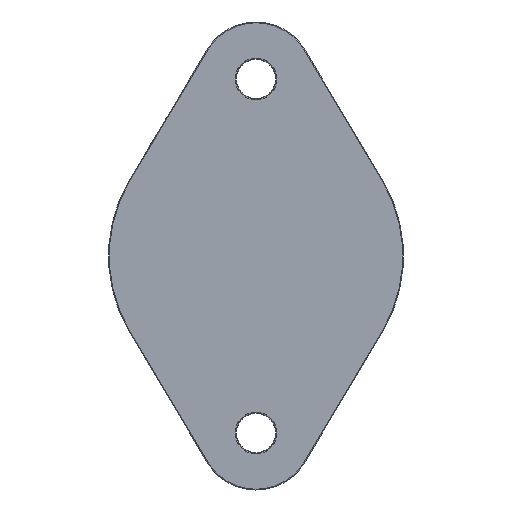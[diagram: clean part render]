
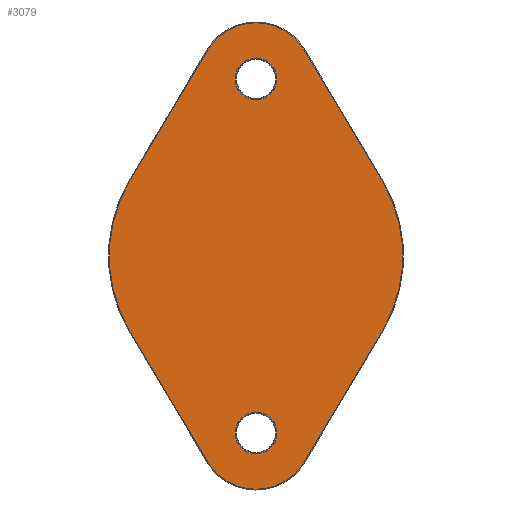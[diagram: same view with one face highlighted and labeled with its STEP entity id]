
A CAD part, left-side view. The second image highlights one B-rep face of the part: STEP entity #3079.
In plain terms, the highlighted planar face has unit normal (-1, 0, 0).
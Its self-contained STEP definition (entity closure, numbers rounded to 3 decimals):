
#172=FACE_BOUND('',#542,.T.);
#173=FACE_BOUND('',#543,.T.);
#261=PLANE('',#3347);
#366=FACE_OUTER_BOUND('',#541,.T.);
#541=EDGE_LOOP('',(#2273,#2274,#2275,#2276,#2277,#2278,#2279,#2280));
#542=EDGE_LOOP('',(#2281,#2282));
#543=EDGE_LOOP('',(#2283,#2284));
#714=LINE('',#4680,#936);
#716=LINE('',#4689,#938);
#717=LINE('',#4697,#939);
#719=LINE('',#4706,#941);
#936=VECTOR('',#3766,10.);
#938=VECTOR('',#3778,10.);
#939=VECTOR('',#3789,10.);
#941=VECTOR('',#3801,10.);
#1176=CIRCLE('',#3293,2.826);
#1178=CIRCLE('',#3295,2.826);
#1181=CIRCLE('',#3300,2.826);
#1183=CIRCLE('',#3302,2.826);
#1189=CIRCLE('',#3313,19.9);
#1192=CIRCLE('',#3318,7.625);
#1195=CIRCLE('',#3323,19.9);
#1198=CIRCLE('',#3328,7.625);
#1370=VERTEX_POINT('',#4638);
#1371=VERTEX_POINT('',#4639);
#1374=VERTEX_POINT('',#4650);
#1375=VERTEX_POINT('',#4651);
#1384=VERTEX_POINT('',#4677);
#1385=VERTEX_POINT('',#4679);
#1386=VERTEX_POINT('',#4684);
#1387=VERTEX_POINT('',#4688);
#1388=VERTEX_POINT('',#4692);
#1389=VERTEX_POINT('',#4696);
#1390=VERTEX_POINT('',#4701);
#1391=VERTEX_POINT('',#4705);
#1690=EDGE_CURVE('',#1370,#1371,#1176,.T.);
#1692=EDGE_CURVE('',#1371,#1370,#1178,.T.);
#1696=EDGE_CURVE('',#1374,#1375,#1181,.T.);
#1698=EDGE_CURVE('',#1375,#1374,#1183,.T.);
#1710=EDGE_CURVE('',#1384,#1385,#714,.T.);
#1713=EDGE_CURVE('',#1385,#1386,#1189,.T.);
#1715=EDGE_CURVE('',#1386,#1387,#716,.T.);
#1717=EDGE_CURVE('',#1387,#1388,#1192,.T.);
#1719=EDGE_CURVE('',#1388,#1389,#717,.T.);
#1722=EDGE_CURVE('',#1389,#1390,#1195,.T.);
#1724=EDGE_CURVE('',#1390,#1391,#719,.T.);
#1727=EDGE_CURVE('',#1391,#1384,#1198,.T.);
#2273=ORIENTED_EDGE('',*,*,#1727,.F.);
#2274=ORIENTED_EDGE('',*,*,#1724,.F.);
#2275=ORIENTED_EDGE('',*,*,#1722,.F.);
#2276=ORIENTED_EDGE('',*,*,#1719,.F.);
#2277=ORIENTED_EDGE('',*,*,#1717,.F.);
#2278=ORIENTED_EDGE('',*,*,#1715,.F.);
#2279=ORIENTED_EDGE('',*,*,#1713,.F.);
#2280=ORIENTED_EDGE('',*,*,#1710,.F.);
#2281=ORIENTED_EDGE('',*,*,#1690,.F.);
#2282=ORIENTED_EDGE('',*,*,#1692,.F.);
#2283=ORIENTED_EDGE('',*,*,#1696,.F.);
#2284=ORIENTED_EDGE('',*,*,#1698,.F.);
#3079=ADVANCED_FACE('',(#366,#172,#173),#261,.F.);
#3293=AXIS2_PLACEMENT_3D('',#4640,#3722,#3723);
#3295=AXIS2_PLACEMENT_3D('',#4642,#3726,#3727);
#3300=AXIS2_PLACEMENT_3D('',#4652,#3737,#3738);
#3302=AXIS2_PLACEMENT_3D('',#4654,#3741,#3742);
#3313=AXIS2_PLACEMENT_3D('',#4685,#3772,#3773);
#3318=AXIS2_PLACEMENT_3D('',#4693,#3783,#3784);
#3323=AXIS2_PLACEMENT_3D('',#4702,#3795,#3796);
#3328=AXIS2_PLACEMENT_3D('',#4710,#3807,#3808);
#3347=AXIS2_PLACEMENT_3D('',#4741,#3847,#3848);
#3722=DIRECTION('center_axis',(-1.,0.,0.));
#3723=DIRECTION('ref_axis',(0.,1.,0.));
#3726=DIRECTION('center_axis',(-1.,0.,0.));
#3727=DIRECTION('ref_axis',(0.,1.,0.));
#3737=DIRECTION('center_axis',(-1.,0.,0.));
#3738=DIRECTION('ref_axis',(0.,1.,0.));
#3741=DIRECTION('center_axis',(-1.,0.,0.));
#3742=DIRECTION('ref_axis',(0.,1.,0.));
#3766=DIRECTION('',(0.,-0.511,-0.859));
#3772=DIRECTION('center_axis',(1.,0.,0.));
#3773=DIRECTION('ref_axis',(0.,-1.,0.));
#3778=DIRECTION('',(0.,0.511,-0.859));
#3783=DIRECTION('center_axis',(1.,0.,0.));
#3784=DIRECTION('ref_axis',(0.,0.,-1.));
#3789=DIRECTION('',(0.,0.511,0.859));
#3795=DIRECTION('center_axis',(1.,0.,0.));
#3796=DIRECTION('ref_axis',(0.,1.,0.));
#3801=DIRECTION('',(0.,-0.511,0.859));
#3807=DIRECTION('center_axis',(1.,0.,0.));
#3808=DIRECTION('ref_axis',(0.,0.,
1.));
#3847=DIRECTION('center_axis',(1.,0.,0.));
#3848=DIRECTION('ref_axis',(0.,0.,
-1.));
#4638=CARTESIAN_POINT('',(0.,-2.826,-24.));
#4639=CARTESIAN_POINT('',(0.,0.,-21.174));
#4640=CARTESIAN_POINT('Origin',(0.,0.,
-24.));
#4642=CARTESIAN_POINT('Origin',(0.,0.,
-24.));
#4650=CARTESIAN_POINT('',(0.,-2.826,24.));
#4651=CARTESIAN_POINT('',(0.,0.,26.826));
#4652=CARTESIAN_POINT('Origin',(0.,0.,
24.));
#4654=CARTESIAN_POINT('Origin',(0.,0.,
24.));
#4677=CARTESIAN_POINT('',(0.,-6.552,27.9));
#4679=CARTESIAN_POINT('',(0.,-17.1,10.177));
#4680=CARTESIAN_POINT('',(0.,-9.359,23.185));
#4684=CARTESIAN_POINT('',(0.,-17.1,-10.177));
#4685=CARTESIAN_POINT('Origin',(0.,0.,
0.));
#4688=CARTESIAN_POINT('',(0.,-6.552,-27.9));
#4689=CARTESIAN_POINT('',(0.,-14.294,-14.892));
#4692=CARTESIAN_POINT('',(0.,6.552,-27.9));
#4693=CARTESIAN_POINT('Origin',(0.,0.,
-24.));
#4696=CARTESIAN_POINT('',(0.,17.1,-10.177));
#4697=CARTESIAN_POINT('',(0.,19.568,-6.031));
#4701=CARTESIAN_POINT('',(0.,17.1,10.177));
#4702=CARTESIAN_POINT('Origin',(0.,0.,
0.));
#4705=CARTESIAN_POINT('',(0.,6.552,27.9));
#4706=CARTESIAN_POINT('',(0.,14.632,14.324));
#4710=CARTESIAN_POINT('Origin',(0.,0.,
24.));
#4741=CARTESIAN_POINT('Origin',(0.,0.,
11.23));
